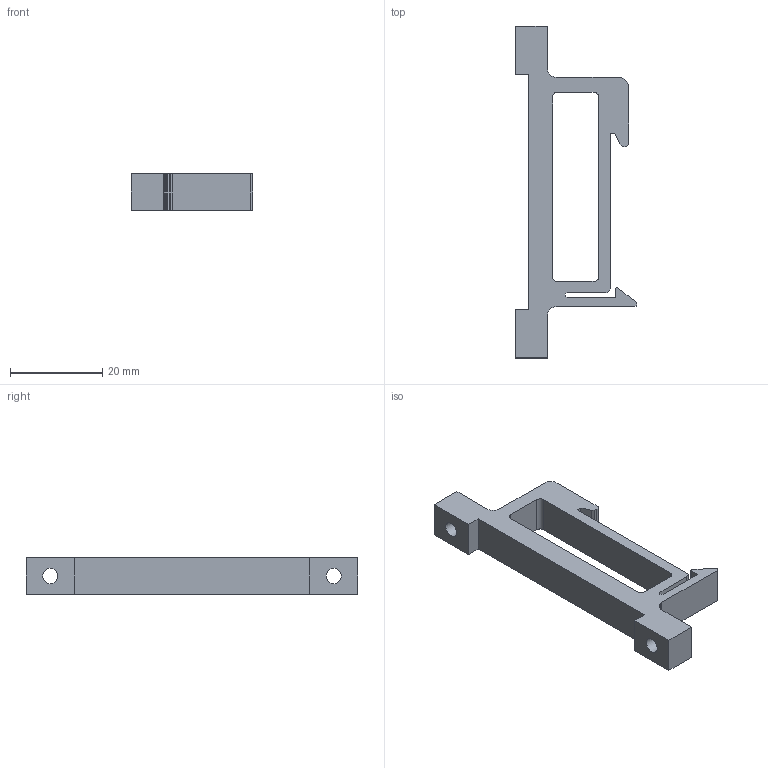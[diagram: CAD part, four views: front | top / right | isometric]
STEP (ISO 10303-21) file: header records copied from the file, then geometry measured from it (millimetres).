
FILE_DESCRIPTION(('FreeCAD Model'),'2;1');
FILE_NAME('/home/ricardo/Documents/Github/din/STEP/relay_x8_board_din_mount.step', '2017-12-19T16:49:35',('Author'),(''), 'Open CASCADE STEP processor 6.8','FreeCAD','Unknown');
FILE_SCHEMA(('AUTOMOTIVE_DESIGN_CC2 { 1 2 10303 214 -1 1 5 4 }'));
Length unit declared in the file: millimetre
Products named in the file (1): screw_pads
Bounding box: 26.46 x 72 x 8 mm (x, y, z)
Volume: 5322.8 mm3; surface area: 4136.5 mm2
Topology: 1 solids, 1 shells, 74 faces, 215 edges, 143 vertices
Faces by surface type: plane 68, cylinder 6
Full cylindrical faces by diameter (mm): 3.3 x2
Entity records: 5324 total; most frequent: CARTESIAN_POINT 990, DIRECTION 792, LINE 610, VECTOR 610, ORIENTED_EDGE 430, PCURVE 430, DEFINITIONAL_REPRESENTATION 430, EDGE_CURVE 215
